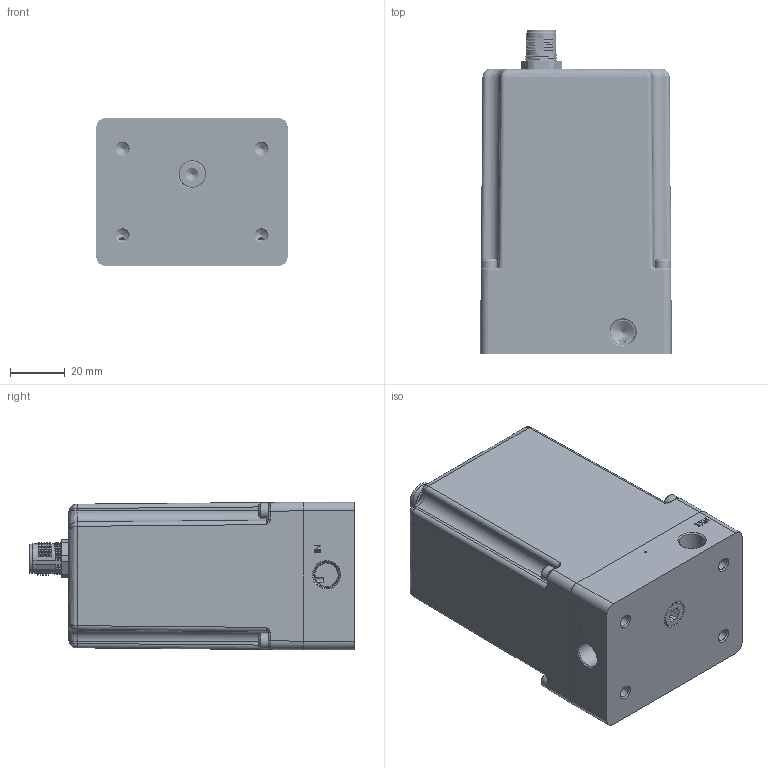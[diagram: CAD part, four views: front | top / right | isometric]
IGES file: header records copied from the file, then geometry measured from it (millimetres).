
Global section: file name: EHP (Generic); native system: Autodesk Inventor 2021; preprocessor: unknown; author: TraceParts; organization: TraceParts S.A.; date: 20220518.114038; units: millimetre
Bounding box: 69.85 x 118.69 x 53.98 mm (x, y, z)
Volume: 170799 mm3; surface area: 111948.4 mm2
Topology: 36 solids, 37 shells, 4054 faces, 11026 edges, 7215 vertices
Faces by surface type: bspline 4054
